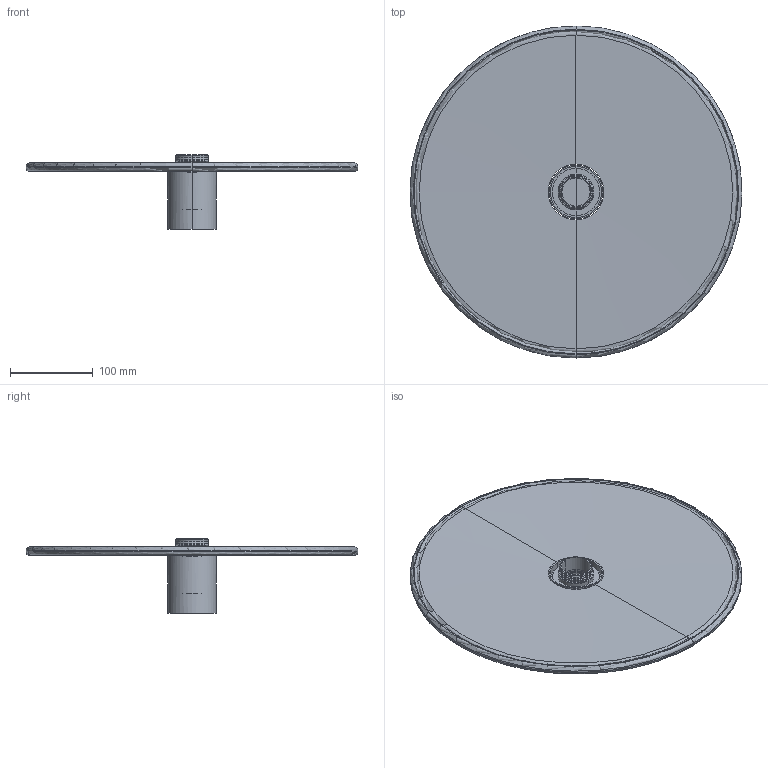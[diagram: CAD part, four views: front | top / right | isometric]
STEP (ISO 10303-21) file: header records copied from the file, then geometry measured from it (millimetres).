
FILE_DESCRIPTION(/* description */ (''),/* implementation_level */ '2;1');
FILE_NAME(/* name */ '62173-78.step',/* time_stamp */ '2024-04-04T09:59:27+02:00',/* author */ ('RenataManzini'),/* organization */ (''),/* preprocessor_version */ 'ST-DEVELOPER v20',/* originating_system */ 'AutoCAD Mechanical',/* authorisation */ '');
FILE_SCHEMA (('AUTOMOTIVE_DESIGN { 1 0 10303 214 3 1 1 }'));
Length unit declared in the file: millimetre
Products named in the file (3): Product; Pieza_62173_62174 - LAMP-425727-_3D_; COSTAS_Shade_69_78 - Shade-425730-_3D_
Assembly tree (2 placements, depth 2):
  Product
    Pieza_62173_62174 - LAMP-425727-_3D_
    COSTAS_Shade_69_78 - Shade-425730-_3D_
Bounding box: 399.92 x 400 x 90 mm (x, y, z)
Volume: 1208422.8 mm3; surface area: 330717.1 mm2
Topology: 5 solids, 5 shells, 106 faces, 244 edges, 138 vertices
Faces by surface type: cylinder 46, plane 32, torus 24, cone 4
Entity records: 4264 total; most frequent: CARTESIAN_POINT 1841, DIRECTION 500, ORIENTED_EDGE 488, EDGE_CURVE 244, AXIS2_PLACEMENT_3D 209, VERTEX_POINT 138, EDGE_LOOP 110, FACE_OUTER_BOUND 106
